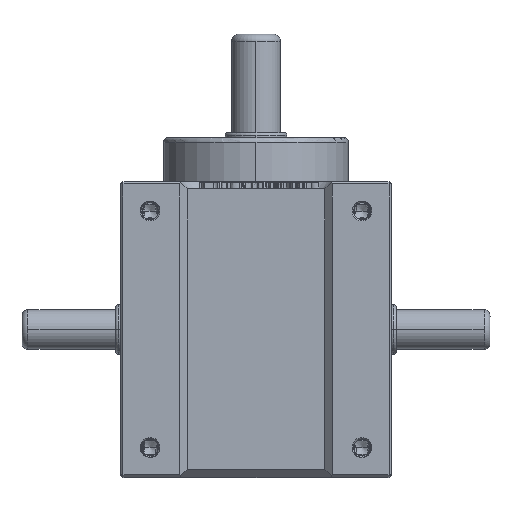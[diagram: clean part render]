
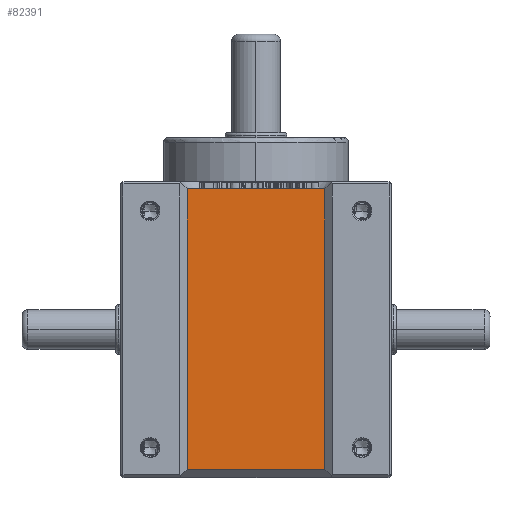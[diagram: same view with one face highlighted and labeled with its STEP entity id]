
A CAD part, top view. The second image highlights one B-rep face of the part: STEP entity #82391.
In plain terms, the highlighted planar face has unit normal (0, 0, 1).
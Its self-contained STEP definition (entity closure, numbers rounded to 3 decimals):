
#6026 = VERTEX_POINT ( 'NONE', #72565 ) ;
#16799 = CARTESIAN_POINT ( 'NONE',  ( -28., 0., 167. ) ) ;
#34461 = CARTESIAN_POINT ( 'NONE',  ( -31., 3., 167. ) ) ;
#35007 = CARTESIAN_POINT ( 'NONE',  ( 28., 3., 167. ) ) ;
#38391 = DIRECTION ( 'NONE',  ( 1., 0., 0. ) ) ;
#43607 = DIRECTION ( 'NONE',  ( 0., -1., 0. ) ) ;
#46679 = EDGE_CURVE ( 'NONE', #6026, #112670, #158418, .T. ) ;
#47017 = CARTESIAN_POINT ( 'NONE',  ( 28., 0., 167. ) ) ;
#48028 = VECTOR ( 'NONE', #126586, 1000. ) ;
#49786 = EDGE_CURVE ( 'NONE', #112670, #55974, #75092, .T. ) ;
#54128 = CARTESIAN_POINT ( 'NONE',  ( 28., 117., 167. ) ) ;
#55974 = VERTEX_POINT ( 'NONE', #54128 ) ;
#57556 = ORIENTED_EDGE ( 'NONE', *, *, #49786, .T. ) ;
#64816 = LINE ( 'NONE', #125114, #127115 ) ;
#67610 = ORIENTED_EDGE ( 'NONE', *, *, #46679, .T. ) ;
#72565 = CARTESIAN_POINT ( 'NONE',  ( -28., 3., 167. ) ) ;
#75092 = LINE ( 'NONE', #47017, #48028 ) ;
#77977 = CARTESIAN_POINT ( 'NONE',  ( 0., 0., 167. ) ) ;
#82391 = ADVANCED_FACE ( 'NONE', ( #144856 ), #104613, .T. ) ;
#90209 = VECTOR ( 'NONE', #43607, 1000. ) ;
#98953 = DIRECTION ( 'NONE',  ( -1., 0., 0. ) ) ;
#104244 = VERTEX_POINT ( 'NONE', #140223 ) ;
#104613 = PLANE ( 'NONE',  #105599 ) ;
#105599 = AXIS2_PLACEMENT_3D ( 'NONE', #77977, #117938, #38391 ) ;
#112670 = VERTEX_POINT ( 'NONE', #35007 ) ;
#116378 = EDGE_LOOP ( 'NONE', ( #122605, #172068, #67610, #57556 ) ) ;
#117938 = DIRECTION ( 'NONE',  ( 0., 0., 1. ) ) ;
#122605 = ORIENTED_EDGE ( 'NONE', *, *, #148813, .T. ) ;
#124843 = EDGE_CURVE ( 'NONE', #104244, #6026, #156605, .T. ) ;
#125114 = CARTESIAN_POINT ( 'NONE',  ( 0., 117., 167. ) ) ;
#126586 = DIRECTION ( 'NONE',  ( 0., 1., 0. ) ) ;
#127115 = VECTOR ( 'NONE', #98953, 1000. ) ;
#140223 = CARTESIAN_POINT ( 'NONE',  ( -28., 117., 167. ) ) ;
#140764 = DIRECTION ( 'NONE',  ( 1., 0., 0. ) ) ;
#144856 = FACE_OUTER_BOUND ( 'NONE', #116378, .T. ) ;
#148813 = EDGE_CURVE ( 'NONE', #55974, #104244, #64816, .T. ) ;
#154295 = VECTOR ( 'NONE', #140764, 1000. ) ;
#156605 = LINE ( 'NONE', #16799, #90209 ) ;
#158418 = LINE ( 'NONE', #34461, #154295 ) ;
#172068 = ORIENTED_EDGE ( 'NONE', *, *, #124843, .T. ) ;
